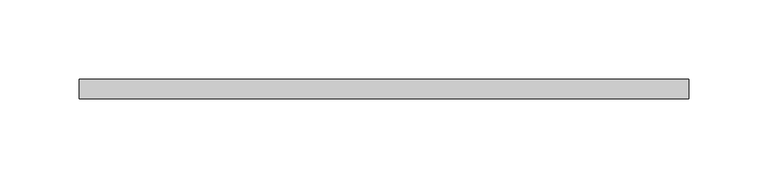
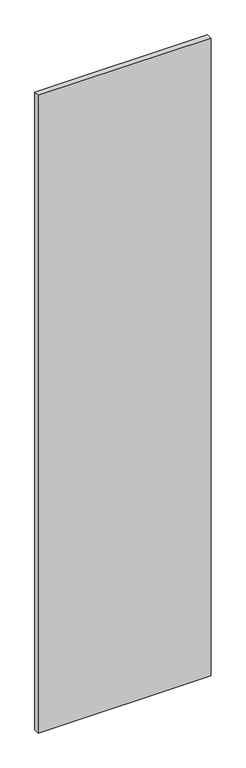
"""IFC4 building model written with IfcOpenShell, lengths in millimetres: proxy geometry, КНАУФ-Суперлист : КНАУФ-Суперлист."""

from ifc_helpers import new_model, si_unit, origin, origin_with_axes, place, context, project, spatial, polyline, outline, extrude, source, transform, mapped, element, save


def generic_models_21a93c99(model_context):
    return source(origin(), model_context, "Body", "SweptSolid", [
        extrude(outline(polyline([(192.5, 0.0), (192.5, -12.5), (-192.5, -12.5), (-192.5, 0.0), (192.5, 0.0)])), origin_with_axes(), (0.0, 0.0, 1.0), 1500.0),
    ])


if __name__ == "__main__":
    model = new_model("IFC4")
    model_context = context("Model", 3, world=origin())
    ifc_project = project(units=[si_unit("LENGTHUNIT", "METRE", prefix="MILLI")], contexts=[model_context])
    site = spatial("IfcSite", under=ifc_project)
    building = spatial("IfcBuilding", under=site)
    placement = place(None, origin())
    generic_models_shape = generic_models_21a93c99(model_context)
    element("IfcBuildingElementProxy", 1, Name="КНАУФ-Суперлист : КНАУФ-Суперлист", ObjectType="КНАУФ-Суперлист : КНАУФ-Суперлист", at=placement, inside=building, context=model_context, shape_type="MappedRepresentation", body=[
        mapped(generic_models_shape, transform((0.0, 0.0, 0.0), x_axis=(1.0, 0.0, 0.0), y_axis=(0.0, 1.0, 0.0), z_axis=(0.0, 0.0, 1.0))),
    ])
    save(model, "model.ifc")
